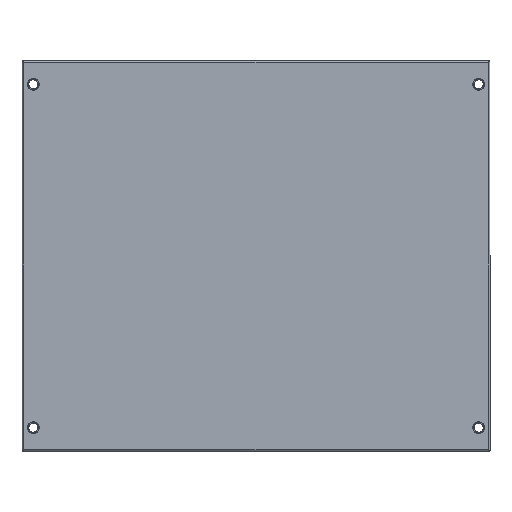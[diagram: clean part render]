
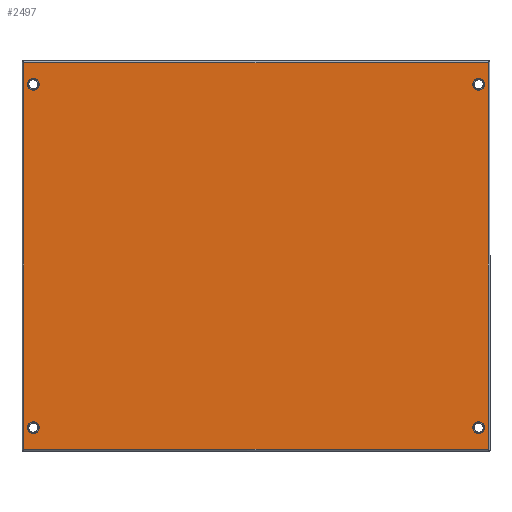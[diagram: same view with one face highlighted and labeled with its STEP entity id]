
A CAD part, top view. The second image highlights one B-rep face of the part: STEP entity #2497.
In plain terms, the highlighted planar face has unit normal (0, 0, 1).
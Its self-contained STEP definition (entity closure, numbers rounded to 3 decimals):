
#86 = CARTESIAN_POINT ( 'NONE',  ( -227., 175., 1.5 ) ) ;
#119 = DIRECTION ( 'NONE',  ( 0., 0., 1. ) ) ;
#126 = CIRCLE ( 'NONE', #1655, 6. ) ;
#134 = VERTEX_POINT ( 'NONE', #2784 ) ;
#145 = DIRECTION ( 'NONE',  ( 0., 0., 1. ) ) ;
#147 = EDGE_CURVE ( 'NONE', #1008, #2821, #593, .T. ) ;
#168 = EDGE_LOOP ( 'NONE', ( #5312, #3300 ) ) ;
#189 = ORIENTED_EDGE ( 'NONE', *, *, #3381, .F. ) ;
#261 = DIRECTION ( 'NONE',  ( 0., 0., 1. ) ) ;
#293 = CARTESIAN_POINT ( 'NONE',  ( -236.47, -199., 1.5 ) ) ;
#355 = CARTESIAN_POINT ( 'NONE',  ( -227., -175., 1.5 ) ) ;
#368 = DIRECTION ( 'NONE',  ( -1., 0., 0. ) ) ;
#402 = CARTESIAN_POINT ( 'NONE',  ( 227., -175., 1.5 ) ) ;
#422 = ORIENTED_EDGE ( 'NONE', *, *, #1523, .F. ) ;
#464 = CIRCLE ( 'NONE', #4855, 6. ) ;
#475 = VERTEX_POINT ( 'NONE', #1702 ) ;
#478 = ORIENTED_EDGE ( 'NONE', *, *, #5094, .T. ) ;
#516 = DIRECTION ( 'NONE',  ( 1., 0., 0. ) ) ;
#592 = AXIS2_PLACEMENT_3D ( 'NONE', #2658, #145, #3063 ) ;
#593 = LINE ( 'NONE', #293, #1948 ) ;
#608 = EDGE_CURVE ( 'NONE', #2821, #1848, #5206, .T. ) ;
#630 = EDGE_CURVE ( 'NONE', #3694, #475, #3834, .T. ) ;
#635 = FACE_OUTER_BOUND ( 'NONE', #773, .T. ) ;
#663 = ORIENTED_EDGE ( 'NONE', *, *, #147, .T. ) ;
#769 = CIRCLE ( 'NONE', #2992, 6. ) ;
#773 = EDGE_LOOP ( 'NONE', ( #478, #663, #1072, #787 ) ) ;
#775 = DIRECTION ( 'NONE',  ( -1., 0., 0. ) ) ;
#787 = ORIENTED_EDGE ( 'NONE', *, *, #1062, .T. ) ;
#810 = DIRECTION ( 'NONE',  ( 1., 0., 0. ) ) ;
#845 = CIRCLE ( 'NONE', #1586, 6. ) ;
#1008 = VERTEX_POINT ( 'NONE', #4748 ) ;
#1058 = CARTESIAN_POINT ( 'NONE',  ( -221., 175., 1.5 ) ) ;
#1062 = EDGE_CURVE ( 'NONE', #1848, #4019, #2855, .T. ) ;
#1072 = ORIENTED_EDGE ( 'NONE', *, *, #608, .T. ) ;
#1109 = VERTEX_POINT ( 'NONE', #5216 ) ;
#1142 = VERTEX_POINT ( 'NONE', #5234 ) ;
#1244 = ORIENTED_EDGE ( 'NONE', *, *, #4365, .F. ) ;
#1267 = EDGE_CURVE ( 'NONE', #1142, #3811, #5126, .T. ) ;
#1523 = EDGE_CURVE ( 'NONE', #5265, #134, #769, .T. ) ;
#1535 = CARTESIAN_POINT ( 'NONE',  ( 236.47, 196.97, 1.5 ) ) ;
#1558 = DIRECTION ( 'NONE',  ( 0., -1., 0. ) ) ;
#1586 = AXIS2_PLACEMENT_3D ( 'NONE', #4859, #2374, #5273 ) ;
#1611 = FACE_BOUND ( 'NONE', #2118, .T. ) ;
#1655 = AXIS2_PLACEMENT_3D ( 'NONE', #86, #3015, #516 ) ;
#1702 = CARTESIAN_POINT ( 'NONE',  ( 233., -175., 1.5 ) ) ;
#1704 = EDGE_LOOP ( 'NONE', ( #422, #4043 ) ) ;
#1848 = VERTEX_POINT ( 'NONE', #4719 ) ;
#1859 = EDGE_LOOP ( 'NONE', ( #1244, #4842 ) ) ;
#1909 = CARTESIAN_POINT ( 'NONE',  ( -227., -175., 1.5 ) ) ;
#1948 = VECTOR ( 'NONE', #1558, 1000. ) ;
#1952 = AXIS2_PLACEMENT_3D ( 'NONE', #1909, #4813, #2327 ) ;
#1967 = EDGE_CURVE ( 'NONE', #2925, #1109, #5197, .T. ) ;
#2118 = EDGE_LOOP ( 'NONE', ( #4559, #189 ) ) ;
#2298 = CARTESIAN_POINT ( 'NONE',  ( 236.47, 199., 1.5 ) ) ;
#2327 = DIRECTION ( 'NONE',  ( -1., 0., 0. ) ) ;
#2374 = DIRECTION ( 'NONE',  ( 0., 0., 1. ) ) ;
#2497 = ADVANCED_FACE ( 'NONE', ( #4929, #3821, #635, #2736, #1611 ), #4409, .T. ) ;
#2627 = LINE ( 'NONE', #5371, #4834 ) ;
#2638 = CARTESIAN_POINT ( 'NONE',  ( 227., -175., 1.5 ) ) ;
#2658 = CARTESIAN_POINT ( 'NONE',  ( -227., 175., 1.5 ) ) ;
#2736 = FACE_BOUND ( 'NONE', #1704, .T. ) ;
#2784 = CARTESIAN_POINT ( 'NONE',  ( 233., 175., 1.5 ) ) ;
#2821 = VERTEX_POINT ( 'NONE', #4914 ) ;
#2855 = LINE ( 'NONE', #2298, #4936 ) ;
#2860 = VECTOR ( 'NONE', #2881, 1000. ) ;
#2874 = DIRECTION ( 'NONE',  ( 0., 0., 1. ) ) ;
#2881 = DIRECTION ( 'NONE',  ( 1., 0., 0. ) ) ;
#2888 = DIRECTION ( 'NONE',  ( -1., 0., 0. ) ) ;
#2925 = VERTEX_POINT ( 'NONE', #3751 ) ;
#2992 = AXIS2_PLACEMENT_3D ( 'NONE', #5359, #2874, #368 ) ;
#3015 = DIRECTION ( 'NONE',  ( 0., 0., 1. ) ) ;
#3034 = DIRECTION ( 'NONE',  ( 1., 0., 0. ) ) ;
#3063 = DIRECTION ( 'NONE',  ( 1., 0., 0. ) ) ;
#3174 = DIRECTION ( 'NONE',  ( 1., 0., 0. ) ) ;
#3271 = DIRECTION ( 'NONE',  ( 0., 0., 1. ) ) ;
#3300 = ORIENTED_EDGE ( 'NONE', *, *, #630, .F. ) ;
#3312 = DIRECTION ( 'NONE',  ( 0., 0., 1. ) ) ;
#3381 = EDGE_CURVE ( 'NONE', #1109, #2925, #3861, .T. ) ;
#3390 = AXIS2_PLACEMENT_3D ( 'NONE', #402, #3312, #810 ) ;
#3635 = EDGE_CURVE ( 'NONE', #475, #3694, #464, .T. ) ;
#3694 = VERTEX_POINT ( 'NONE', #3919 ) ;
#3751 = CARTESIAN_POINT ( 'NONE',  ( -233., -175., 1.5 ) ) ;
#3811 = VERTEX_POINT ( 'NONE', #1058 ) ;
#3821 = FACE_BOUND ( 'NONE', #1859, .T. ) ;
#3834 = CIRCLE ( 'NONE', #3390, 6. ) ;
#3861 = CIRCLE ( 'NONE', #5235, 6. ) ;
#3919 = CARTESIAN_POINT ( 'NONE',  ( 221., -175., 1.5 ) ) ;
#3990 = AXIS2_PLACEMENT_3D ( 'NONE', #5240, #261, #3174 ) ;
#4018 = EDGE_CURVE ( 'NONE', #134, #5265, #845, .T. ) ;
#4019 = VERTEX_POINT ( 'NONE', #1535 ) ;
#4043 = ORIENTED_EDGE ( 'NONE', *, *, #4018, .F. ) ;
#4108 = CARTESIAN_POINT ( 'NONE',  ( 238.5, -196.97, 1.5 ) ) ;
#4242 = CARTESIAN_POINT ( 'NONE',  ( 221., 175., 1.5 ) ) ;
#4365 = EDGE_CURVE ( 'NONE', #3811, #1142, #126, .T. ) ;
#4409 = PLANE ( 'NONE',  #3990 ) ;
#4559 = ORIENTED_EDGE ( 'NONE', *, *, #1967, .F. ) ;
#4719 = CARTESIAN_POINT ( 'NONE',  ( 236.47, -196.97, 1.5 ) ) ;
#4748 = CARTESIAN_POINT ( 'NONE',  ( -236.47, 196.97, 1.5 ) ) ;
#4784 = DIRECTION ( 'NONE',  ( 0., 1., 0. ) ) ;
#4813 = DIRECTION ( 'NONE',  ( 0., 0., 1. ) ) ;
#4834 = VECTOR ( 'NONE', #2888, 1000. ) ;
#4842 = ORIENTED_EDGE ( 'NONE', *, *, #1267, .F. ) ;
#4855 = AXIS2_PLACEMENT_3D ( 'NONE', #2638, #119, #3034 ) ;
#4859 = CARTESIAN_POINT ( 'NONE',  ( 227., 175., 1.5 ) ) ;
#4914 = CARTESIAN_POINT ( 'NONE',  ( -236.47, -196.97, 1.5 ) ) ;
#4929 = FACE_BOUND ( 'NONE', #168, .T. ) ;
#4936 = VECTOR ( 'NONE', #4784, 1000. ) ;
#5094 = EDGE_CURVE ( 'NONE', #4019, #1008, #2627, .T. ) ;
#5126 = CIRCLE ( 'NONE', #592, 6. ) ;
#5197 = CIRCLE ( 'NONE', #1952, 6. ) ;
#5206 = LINE ( 'NONE', #4108, #2860 ) ;
#5216 = CARTESIAN_POINT ( 'NONE',  ( -221., -175., 1.5 ) ) ;
#5234 = CARTESIAN_POINT ( 'NONE',  ( -233., 175., 1.5 ) ) ;
#5235 = AXIS2_PLACEMENT_3D ( 'NONE', #355, #3271, #775 ) ;
#5240 = CARTESIAN_POINT ( 'NONE',  ( 0., 0., 1.5 ) ) ;
#5265 = VERTEX_POINT ( 'NONE', #4242 ) ;
#5273 = DIRECTION ( 'NONE',  ( -1., 0., 0. ) ) ;
#5312 = ORIENTED_EDGE ( 'NONE', *, *, #3635, .F. ) ;
#5359 = CARTESIAN_POINT ( 'NONE',  ( 227., 175., 1.5 ) ) ;
#5371 = CARTESIAN_POINT ( 'NONE',  ( -238.5, 196.97, 1.5 ) ) ;
